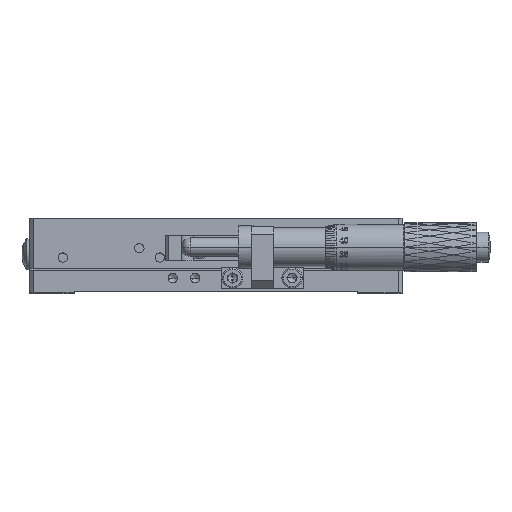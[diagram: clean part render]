
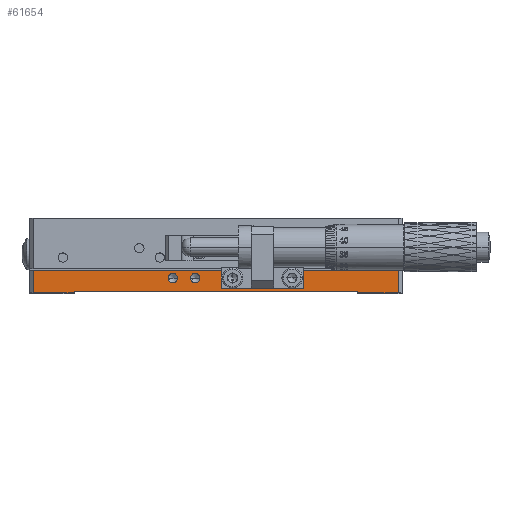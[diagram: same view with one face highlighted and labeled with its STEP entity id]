
A CAD part, top view. The second image highlights one B-rep face of the part: STEP entity #61654.
In plain terms, the highlighted planar face has unit normal (0, 0, 1).
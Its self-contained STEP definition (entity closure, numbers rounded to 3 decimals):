
#27 = CIRCLE ( 'NONE', #46816, 1.25 ) ;
#457 = LINE ( 'NONE', #52059, #88147 ) ;
#2222 = ORIENTED_EDGE ( 'NONE', *, *, #53147, .F. ) ;
#2648 = ORIENTED_EDGE ( 'NONE', *, *, #104029, .F. ) ;
#5682 = AXIS2_PLACEMENT_3D ( 'NONE', #26810, #96535, #78399 ) ;
#5783 = VERTEX_POINT ( 'NONE', #88653 ) ;
#6420 = EDGE_CURVE ( 'NONE', #51283, #88838, #101919, .T. ) ;
#8110 = LINE ( 'NONE', #61987, #69885 ) ;
#8780 = DIRECTION ( 'NONE',  ( 0., -1., 0. ) ) ;
#8954 = DIRECTION ( 'NONE',  ( 0., 0., 1. ) ) ;
#9198 = CARTESIAN_POINT ( 'NONE',  ( 54.5, 4., 50. ) ) ;
#9362 = VERTEX_POINT ( 'NONE', #103389 ) ;
#11565 = DIRECTION ( 'NONE',  ( 0., 0., 1. ) ) ;
#11835 = AXIS2_PLACEMENT_3D ( 'NONE', #94010, #21370, #58288 ) ;
#13845 = ORIENTED_EDGE ( 'NONE', *, *, #107152, .F. ) ;
#16344 = FACE_BOUND ( 'NONE', #24070, .T. ) ;
#16603 = CARTESIAN_POINT ( 'NONE',  ( 44.5, 4., 50. ) ) ;
#16754 = DIRECTION ( 'NONE',  ( -1., 0., 0. ) ) ;
#19871 = VERTEX_POINT ( 'NONE', #83142 ) ;
#20160 = VERTEX_POINT ( 'NONE', #70716 ) ;
#20504 = VERTEX_POINT ( 'NONE', #40792 ) ;
#21370 = DIRECTION ( 'NONE',  ( 0., 0., 1. ) ) ;
#22818 = CARTESIAN_POINT ( 'NONE',  ( 100., 0., 50. ) ) ;
#23638 = AXIS2_PLACEMENT_3D ( 'NONE', #16603, #8954, #42407 ) ;
#24070 = EDGE_LOOP ( 'NONE', ( #49972, #62437 ) ) ;
#24550 = CARTESIAN_POINT ( 'NONE',  ( 45.75, 4., 50. ) ) ;
#26359 = LINE ( 'NONE', #62076, #83390 ) ;
#26810 = CARTESIAN_POINT ( 'NONE',  ( 38.5, 4., 50. ) ) ;
#27658 = VERTEX_POINT ( 'NONE', #70529 ) ;
#28467 = AXIS2_PLACEMENT_3D ( 'NONE', #94136, #11565, #84169 ) ;
#29481 = VERTEX_POINT ( 'NONE', #91022 ) ;
#29822 = CARTESIAN_POINT ( 'NONE',  ( 12., 0., 50. ) ) ;
#30230 = DIRECTION ( 'NONE',  ( 0., 1., 0. ) ) ;
#31049 = DIRECTION ( 'NONE',  ( 0., -1., 0. ) ) ;
#31114 = ORIENTED_EDGE ( 'NONE', *, *, #94220, .F. ) ;
#31328 = CARTESIAN_POINT ( 'NONE',  ( 1., 6., 50. ) ) ;
#31746 = CARTESIAN_POINT ( 'NONE',  ( 54.5, 4., 50. ) ) ;
#32135 = DIRECTION ( 'NONE',  ( 0., 0., 1. ) ) ;
#32280 = EDGE_CURVE ( 'NONE', #20504, #50728, #110755, .T. ) ;
#33251 = VECTOR ( 'NONE', #61460, 1000. ) ;
#33258 = CARTESIAN_POINT ( 'NONE',  ( 70.5, 4., 50. ) ) ;
#34439 = DIRECTION ( 'NONE',  ( 1., 0., 0. ) ) ;
#35656 = CIRCLE ( 'NONE', #5682, 1.25 ) ;
#36772 = VECTOR ( 'NONE', #30230, 1000. ) ;
#36822 = DIRECTION ( 'NONE',  ( -1., 0., 0. ) ) ;
#37194 = EDGE_LOOP ( 'NONE', ( #2648, #31114 ) ) ;
#40792 = CARTESIAN_POINT ( 'NONE',  ( 39.75, 4., 50. ) ) ;
#40805 = EDGE_CURVE ( 'NONE', #100234, #9362, #40850, .T. ) ;
#40850 = CIRCLE ( 'NONE', #96926, 1.25 ) ;
#41930 = EDGE_CURVE ( 'NONE', #61756, #115064, #58065, .T. ) ;
#42144 = PLANE ( 'NONE',  #65529 ) ;
#42407 = DIRECTION ( 'NONE',  ( 1., 0., 0. ) ) ;
#42742 = DIRECTION ( 'NONE',  ( -1., 0., 0. ) ) ;
#43966 = EDGE_LOOP ( 'NONE', ( #55240, #94074, #88844, #79755, #13845, #72896, #57328, #46107 ) ) ;
#46107 = ORIENTED_EDGE ( 'NONE', *, *, #78355, .T. ) ;
#46816 = AXIS2_PLACEMENT_3D ( 'NONE', #31746, #74515, #83280 ) ;
#49972 = ORIENTED_EDGE ( 'NONE', *, *, #80021, .F. ) ;
#50197 = LINE ( 'NONE', #80006, #94616 ) ;
#50364 = FACE_OUTER_BOUND ( 'NONE', #43966, .T. ) ;
#50728 = VERTEX_POINT ( 'NONE', #113350 ) ;
#51283 = VERTEX_POINT ( 'NONE', #76617 ) ;
#52059 = CARTESIAN_POINT ( 'NONE',  ( 100., 6., 50. ) ) ;
#52922 = CARTESIAN_POINT ( 'NONE',  ( 1., 0., 50. ) ) ;
#53147 = EDGE_CURVE ( 'NONE', #9362, #100234, #27, .T. ) ;
#55240 = ORIENTED_EDGE ( 'NONE', *, *, #100285, .F. ) ;
#57328 = ORIENTED_EDGE ( 'NONE', *, *, #75679, .F. ) ;
#57409 = CARTESIAN_POINT ( 'NONE',  ( 12., 0.5, 50. ) ) ;
#58065 = CIRCLE ( 'NONE', #91745, 1.25 ) ;
#58288 = DIRECTION ( 'NONE',  ( 1., 0., 0. ) ) ;
#58915 = EDGE_CURVE ( 'NONE', #50728, #20504, #35656, .T. ) ;
#59599 = DIRECTION ( 'NONE',  ( 1., 0., 0. ) ) ;
#60845 = FACE_BOUND ( 'NONE', #105510, .T. ) ;
#61008 = EDGE_LOOP ( 'NONE', ( #79981, #106759 ) ) ;
#61017 = EDGE_CURVE ( 'NONE', #20160, #95795, #457, .T. ) ;
#61460 = DIRECTION ( 'NONE',  ( -1., 0., 0. ) ) ;
#61654 = ADVANCED_FACE ( 'NONE', ( #68479, #60845, #114762, #16344, #50364 ), #42144, .F. ) ;
#61756 = VERTEX_POINT ( 'NONE', #114616 ) ;
#61987 = CARTESIAN_POINT ( 'NONE',  ( 1., 0., 50. ) ) ;
#62076 = CARTESIAN_POINT ( 'NONE',  ( 88., 0.5, 50. ) ) ;
#62355 = CIRCLE ( 'NONE', #11835, 1.25 ) ;
#62437 = ORIENTED_EDGE ( 'NONE', *, *, #41930, .F. ) ;
#63759 = CARTESIAN_POINT ( 'NONE',  ( 100., 0., 50. ) ) ;
#64821 = LINE ( 'NONE', #65393, #36772 ) ;
#65393 = CARTESIAN_POINT ( 'NONE',  ( 99., 0., 50. ) ) ;
#65529 = AXIS2_PLACEMENT_3D ( 'NONE', #22818, #87220, #42742 ) ;
#68479 = FACE_BOUND ( 'NONE', #37194, .T. ) ;
#69885 = VECTOR ( 'NONE', #113596, 1000. ) ;
#70271 = ORIENTED_EDGE ( 'NONE', *, *, #40805, .F. ) ;
#70529 = CARTESIAN_POINT ( 'NONE',  ( 88., 0.5, 50. ) ) ;
#70716 = CARTESIAN_POINT ( 'NONE',  ( 99., 6., 50. ) ) ;
#71054 = EDGE_CURVE ( 'NONE', #29481, #20160, #64821, .T. ) ;
#72896 = ORIENTED_EDGE ( 'NONE', *, *, #6420, .F. ) ;
#74125 = CIRCLE ( 'NONE', #23638, 1.25 ) ;
#74515 = DIRECTION ( 'NONE',  ( 0., 0., 1. ) ) ;
#75679 = EDGE_CURVE ( 'NONE', #27658, #51283, #77461, .T. ) ;
#76026 = DIRECTION ( 'NONE',  ( 0., 0., 1. ) ) ;
#76617 = CARTESIAN_POINT ( 'NONE',  ( 12., 0.5, 50. ) ) ;
#77461 = LINE ( 'NONE', #78044, #98850 ) ;
#77693 = CARTESIAN_POINT ( 'NONE',  ( 55.75, 4., 50. ) ) ;
#78044 = CARTESIAN_POINT ( 'NONE',  ( 100., 0.5, 50. ) ) ;
#78355 = EDGE_CURVE ( 'NONE', #27658, #5783, #26359, .T. ) ;
#78399 = DIRECTION ( 'NONE',  ( 1., 0., 0. ) ) ;
#79755 = ORIENTED_EDGE ( 'NONE', *, *, #95382, .T. ) ;
#79981 = ORIENTED_EDGE ( 'NONE', *, *, #32280, .F. ) ;
#80006 = CARTESIAN_POINT ( 'NONE',  ( 100., 0., 50. ) ) ;
#80021 = EDGE_CURVE ( 'NONE', #115064, #61756, #74125, .T. ) ;
#80768 = LINE ( 'NONE', #63759, #33251 ) ;
#83142 = CARTESIAN_POINT ( 'NONE',  ( 69.25, 4., 50. ) ) ;
#83280 = DIRECTION ( 'NONE',  ( 1., 0., 0. ) ) ;
#83390 = VECTOR ( 'NONE', #8780, 1000. ) ;
#84169 = DIRECTION ( 'NONE',  ( 1., 0., 0. ) ) ;
#87220 = DIRECTION ( 'NONE',  ( 0., 0., -1. ) ) ;
#87513 = CIRCLE ( 'NONE', #98716, 1.25 ) ;
#88147 = VECTOR ( 'NONE', #36822, 1000. ) ;
#88653 = CARTESIAN_POINT ( 'NONE',  ( 88., 0., 50. ) ) ;
#88838 = VERTEX_POINT ( 'NONE', #29822 ) ;
#88844 = ORIENTED_EDGE ( 'NONE', *, *, #61017, .T. ) ;
#89209 = VECTOR ( 'NONE', #31049, 1000. ) ;
#91022 = CARTESIAN_POINT ( 'NONE',  ( 99., 0., 50. ) ) ;
#91745 = AXIS2_PLACEMENT_3D ( 'NONE', #94226, #32135, #101842 ) ;
#94010 = CARTESIAN_POINT ( 'NONE',  ( 70.5, 4., 50. ) ) ;
#94074 = ORIENTED_EDGE ( 'NONE', *, *, #71054, .T. ) ;
#94136 = CARTESIAN_POINT ( 'NONE',  ( 38.5, 4., 50. ) ) ;
#94220 = EDGE_CURVE ( 'NONE', #19871, #98435, #62355, .T. ) ;
#94226 = CARTESIAN_POINT ( 'NONE',  ( 44.5, 4., 50. ) ) ;
#94616 = VECTOR ( 'NONE', #16754, 1000. ) ;
#95382 = EDGE_CURVE ( 'NONE', #95795, #114447, #8110, .T. ) ;
#95795 = VERTEX_POINT ( 'NONE', #31328 ) ;
#96535 = DIRECTION ( 'NONE',  ( 0., 0., 1. ) ) ;
#96926 = AXIS2_PLACEMENT_3D ( 'NONE', #9198, #105336, #34439 ) ;
#98435 = VERTEX_POINT ( 'NONE', #104206 ) ;
#98716 = AXIS2_PLACEMENT_3D ( 'NONE', #33258, #76026, #59599 ) ;
#98850 = VECTOR ( 'NONE', #113196, 1000. ) ;
#100234 = VERTEX_POINT ( 'NONE', #77693 ) ;
#100285 = EDGE_CURVE ( 'NONE', #29481, #5783, #50197, .T. ) ;
#101842 = DIRECTION ( 'NONE',  ( 1., 0., 0. ) ) ;
#101919 = LINE ( 'NONE', #57409, #89209 ) ;
#103389 = CARTESIAN_POINT ( 'NONE',  ( 53.25, 4., 50. ) ) ;
#104029 = EDGE_CURVE ( 'NONE', #98435, #19871, #87513, .T. ) ;
#104206 = CARTESIAN_POINT ( 'NONE',  ( 71.75, 4., 50. ) ) ;
#105336 = DIRECTION ( 'NONE',  ( 0., 0., 1. ) ) ;
#105510 = EDGE_LOOP ( 'NONE', ( #70271, #2222 ) ) ;
#106759 = ORIENTED_EDGE ( 'NONE', *, *, #58915, .F. ) ;
#107152 = EDGE_CURVE ( 'NONE', #88838, #114447, #80768, .T. ) ;
#110755 = CIRCLE ( 'NONE', #28467, 1.25 ) ;
#113196 = DIRECTION ( 'NONE',  ( -1., 0., 0. ) ) ;
#113350 = CARTESIAN_POINT ( 'NONE',  ( 37.25, 4., 50. ) ) ;
#113596 = DIRECTION ( 'NONE',  ( 0., -1., 0. ) ) ;
#114447 = VERTEX_POINT ( 'NONE', #52922 ) ;
#114616 = CARTESIAN_POINT ( 'NONE',  ( 43.25, 4., 50. ) ) ;
#114762 = FACE_BOUND ( 'NONE', #61008, .T. ) ;
#115064 = VERTEX_POINT ( 'NONE', #24550 ) ;
